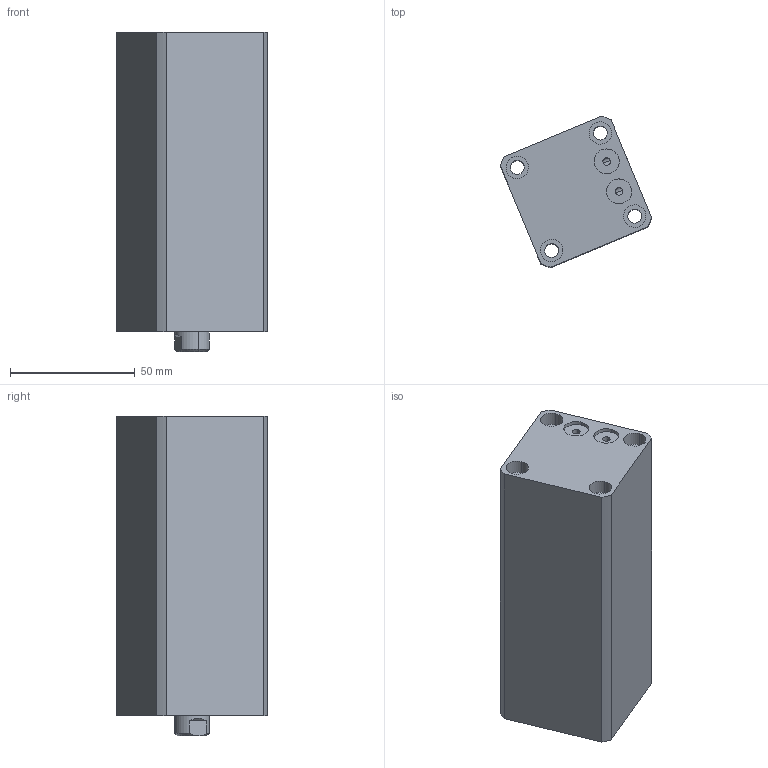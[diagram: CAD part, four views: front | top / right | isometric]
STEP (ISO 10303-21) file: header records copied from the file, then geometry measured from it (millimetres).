
FILE_DESCRIPTION (( 'STEP AP214' ), '1' );
FILE_NAME ('chtb-sdmb25x75n_asm.STEP', '2018-05-24T01:56:04', ( 'Windows' ), ( 'Microsoft' ), 'SwSTEP 2.0', 'SolidWorks 2015', '' );
FILE_SCHEMA (( 'AUTOMOTIVE_DESIGN' ));
Length unit declared in the file: millimetre
Products named in the file (4): CHTB-SDMB25X75NHSG; CHTB-SDMB25X75NBT; CHTB-25QG; chtb-sdmb25x75n_asm
Assembly tree (3 placements, depth 2):
  chtb-sdmb25x75n_asm
    CHTB-25QG
    CHTB-SDMB25X75NBT
    CHTB-SDMB25X75NHSG
Bounding box: 60.55 x 60.55 x 128 mm (x, y, z)
Volume: 233253.8 mm3; surface area: 58885.1 mm2
Topology: 3 solids, 3 shells, 142 faces, 379 edges, 257 vertices
Faces by surface type: cylinder 89, plane 34, bspline 10, cone 9
Entity records: 8024 total; most frequent: CARTESIAN_POINT 4397, ORIENTED_EDGE 746, DIRECTION 661, EDGE_CURVE 373, AXIS2_PLACEMENT_3D 272, VERTEX_POINT 257, EDGE_LOOP 180, ADVANCED_FACE 142
